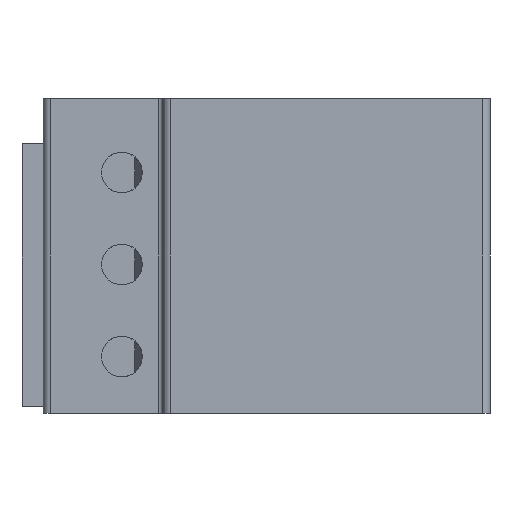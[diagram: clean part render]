
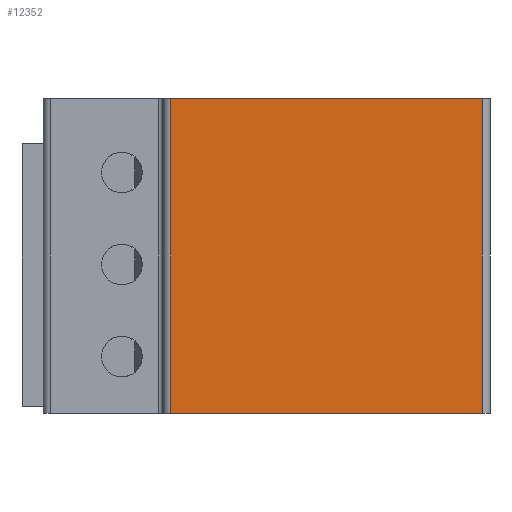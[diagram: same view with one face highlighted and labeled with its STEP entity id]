
A CAD part, front view. The second image highlights one B-rep face of the part: STEP entity #12352.
In plain terms, the highlighted planar face has unit normal (0, -1, 0).
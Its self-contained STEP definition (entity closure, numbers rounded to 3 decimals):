
#113=DIRECTION('',(-1.,0.,0.));
#114=VECTOR('',#113,11.85);
#115=CARTESIAN_POINT('',(16.7,0.,0.));
#116=LINE('',#115,#114);
#4117=DIRECTION('',(0.,0.,-1.));
#4118=VECTOR('',#4117,11.95);
#4119=CARTESIAN_POINT('',(4.85,0.,0.));
#4120=LINE('',#4119,#4118);
#4125=DIRECTION('',(-1.,0.,0.));
#4126=VECTOR('',#4125,11.85);
#4127=CARTESIAN_POINT('',(16.7,0.,-11.95));
#4128=LINE('',#4127,#4126);
#4133=DIRECTION('',(0.,0.,1.));
#4134=VECTOR('',#4133,11.95);
#4135=CARTESIAN_POINT('',(16.7,0.,-11.95));
#4136=LINE('',#4135,#4134);
#5806=CARTESIAN_POINT('',(16.7,0.,0.));
#5807=VERTEX_POINT('',#5806);
#5808=CARTESIAN_POINT('',(4.85,0.,0.));
#5809=VERTEX_POINT('',#5808);
#6062=CARTESIAN_POINT('',(4.85,0.,-11.95));
#6063=VERTEX_POINT('',#6062);
#6064=CARTESIAN_POINT('',(16.7,0.,-11.95));
#6065=VERTEX_POINT('',#6064);
#12340=CARTESIAN_POINT('',(17.,0.,-1.45));
#12341=DIRECTION('',(0.,1.,0.));
#12342=DIRECTION('',(0.,0.,1.));
#12343=AXIS2_PLACEMENT_3D('',#12340,#12341,#12342);
#12344=PLANE('',#12343);
#12346=ORIENTED_EDGE('',*,*,#12345,.F.);
#12347=ORIENTED_EDGE('',*,*,#8430,.T.);
#12348=ORIENTED_EDGE('',*,*,#12332,.F.);
#12349=ORIENTED_EDGE('',*,*,#7303,.F.);
#12350=EDGE_LOOP('',(#12346,#12347,#12348,#12349));
#12351=FACE_OUTER_BOUND('',#12350,.F.);
#12352=ADVANCED_FACE('',(#12351),#12344,.F.);
#7303=EDGE_CURVE('',#5807,#5809,#116,.T.);
#8430=EDGE_CURVE('',#6065,#6063,#4128,.T.);
#12332=EDGE_CURVE('',#5809,#6063,#4120,.T.);
#12345=EDGE_CURVE('',#6065,#5807,#4136,.T.);
